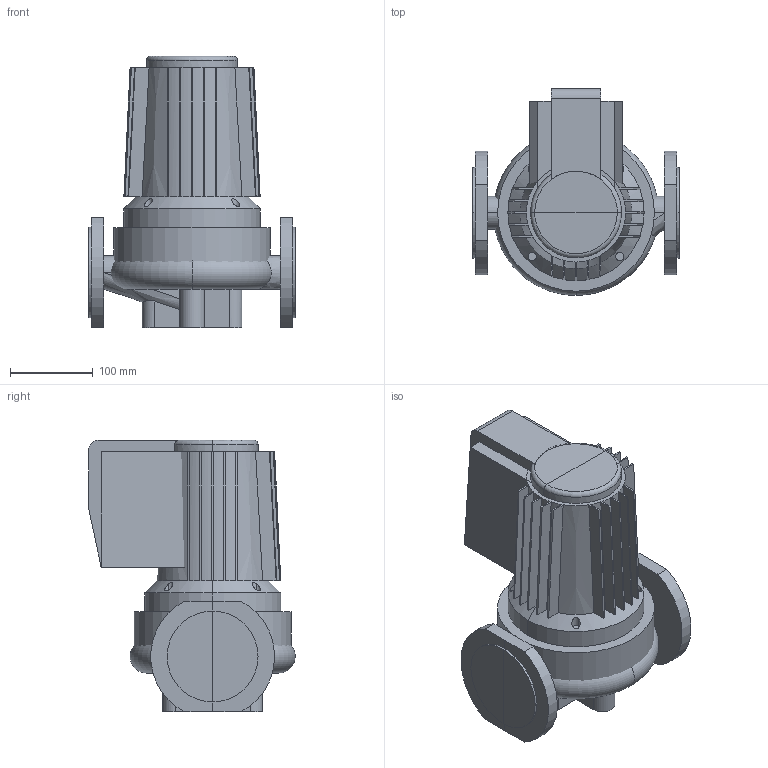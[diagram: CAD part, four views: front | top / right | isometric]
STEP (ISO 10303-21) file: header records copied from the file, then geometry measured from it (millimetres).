
FILE_DESCRIPTION(/* description */ (''),/* implementation_level */ '2;1');
FILE_NAME(/* name */ 'C:\Users\a.zyazeva\Desktop\Wellmix\TG TD WRE WRS\WRS 40-130 SF (220 В).stp',/* time_stamp */ '2024-08-28T00:15:30+03:00',/* author */ ('a.zyazeva'),/* organization */ (''),/* preprocessor_version */ 'ST-DEVELOPER v18.1',/* originating_system */ 'Autodesk Inventor 2022',/* authorisation */ '');
FILE_SCHEMA (('AUTOMOTIVE_DESIGN { 1 0 10303 214 3 1 1 }'));
Length unit declared in the file: millimetre
Products named in the file (1): WRS 40-130 SF (220 В)
Bounding box: 250 x 249.97 x 329 mm (x, y, z)
Volume: 8787194.1 mm3; surface area: 643723.5 mm2
Topology: 6 solids, 6 shells, 175 faces, 427 edges, 265 vertices
Faces by surface type: plane 105, cylinder 30, cone 17, bspline 17, torus 6
Entity records: 6637 total; most frequent: CARTESIAN_POINT 2706, ORIENTED_EDGE 854, DIRECTION 737, EDGE_CURVE 427, VERTEX_POINT 265, AXIS2_PLACEMENT_3D 264, LINE 209, VECTOR 209
